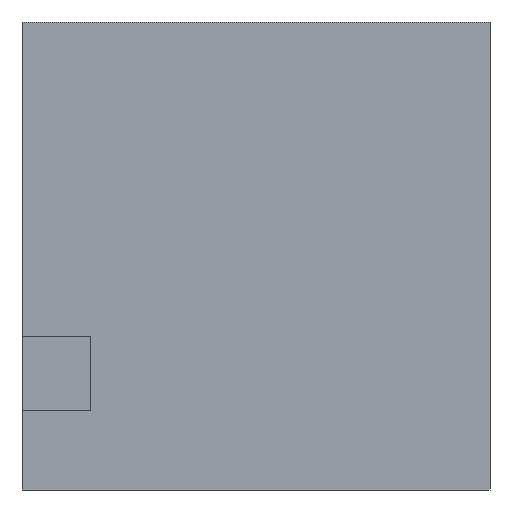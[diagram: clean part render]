
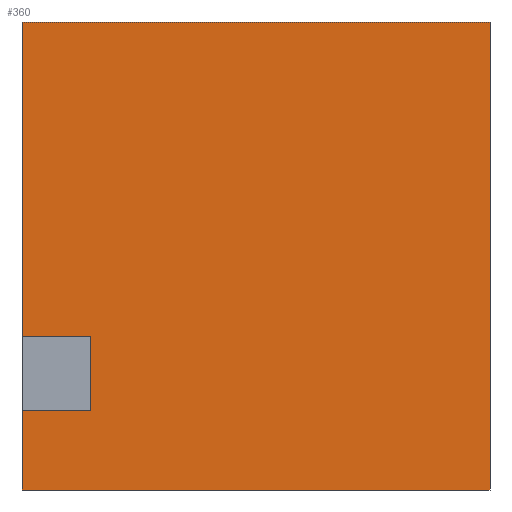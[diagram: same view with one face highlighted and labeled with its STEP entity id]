
A CAD part, left-side view. The second image highlights one B-rep face of the part: STEP entity #360.
In plain terms, the highlighted planar face has unit normal (-1, 0, 0).
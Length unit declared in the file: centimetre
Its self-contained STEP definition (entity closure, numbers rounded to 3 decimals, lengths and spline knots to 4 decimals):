
#3 = LINE ( 'NONE', #84, #902 ) ;
#63 = VECTOR ( 'NONE', #504, 100. ) ;
#80 = CARTESIAN_POINT ( 'NONE',  ( 0., 1000., 0. ) ) ;
#83 = EDGE_CURVE ( 'NONE', #748, #543, #1307, .T. ) ;
#84 = CARTESIAN_POINT ( 'NONE',  ( 0., 1000., 1000. ) ) ;
#89 = LINE ( 'NONE', #80, #63 ) ;
#95 = DIRECTION ( 'NONE',  ( 0., 0., 1. ) ) ;
#98 = ORIENTED_EDGE ( 'NONE', *, *, #685, .T. ) ;
#112 = CARTESIAN_POINT ( 'NONE',  ( 0., 852.761, 169.1954 ) ) ;
#138 = DIRECTION ( 'NONE',  ( 0., 1., 0. ) ) ;
#158 = ORIENTED_EDGE ( 'NONE', *, *, #884, .F. ) ;
#181 = CARTESIAN_POINT ( 'NONE',  ( 0., 1000., 327.7944 ) ) ;
#216 = VERTEX_POINT ( 'NONE', #475 ) ;
#236 = VECTOR ( 'NONE', #138, 100. ) ;
#249 = CARTESIAN_POINT ( 'NONE',  ( 0., 852.761, 327.7944 ) ) ;
#265 = AXIS2_PLACEMENT_3D ( 'NONE', #1304, #435, #1176 ) ;
#303 = VECTOR ( 'NONE', #665, 100. ) ;
#360 = ADVANCED_FACE ( 'NONE', ( #980 ), #1183, .F. ) ;
#366 = CARTESIAN_POINT ( 'NONE',  ( 0., 1000., 169.1954 ) ) ;
#407 = CARTESIAN_POINT ( 'NONE',  ( 0., 1000., 1000. ) ) ;
#409 = VERTEX_POINT ( 'NONE', #891 ) ;
#431 = CARTESIAN_POINT ( 'NONE',  ( 0., 852.761, 169.1954 ) ) ;
#435 = DIRECTION ( 'NONE',  ( 1., 0., 0. ) ) ;
#440 = LINE ( 'NONE', #978, #1085 ) ;
#474 = ORIENTED_EDGE ( 'NONE', *, *, #896, .T. ) ;
#475 = CARTESIAN_POINT ( 'NONE',  ( 0., 852.761, 169.1954 ) ) ;
#481 = ORIENTED_EDGE ( 'NONE', *, *, #1212, .F. ) ;
#504 = DIRECTION ( 'NONE',  ( 0., -1., 0. ) ) ;
#510 = DIRECTION ( 'NONE',  ( 0., 0., -1. ) ) ;
#543 = VERTEX_POINT ( 'NONE', #181 ) ;
#553 = EDGE_CURVE ( 'NONE', #1023, #664, #1125, .T. ) ;
#656 = LINE ( 'NONE', #1308, #303 ) ;
#664 = VERTEX_POINT ( 'NONE', #1052 ) ;
#665 = DIRECTION ( 'NONE',  ( 0., 0., -1. ) ) ;
#685 = EDGE_CURVE ( 'NONE', #409, #703, #89, .T. ) ;
#703 = VERTEX_POINT ( 'NONE', #939 ) ;
#708 = VERTEX_POINT ( 'NONE', #366 ) ;
#725 = LINE ( 'NONE', #431, #1215 ) ;
#748 = VERTEX_POINT ( 'NONE', #1137 ) ;
#787 = CARTESIAN_POINT ( 'NONE',  ( 0., 1000., 1000. ) ) ;
#805 = EDGE_CURVE ( 'NONE', #708, #216, #725, .T. ) ;
#874 = ORIENTED_EDGE ( 'NONE', *, *, #1282, .T. ) ;
#880 = VECTOR ( 'NONE', #1252, 100. ) ;
#884 = EDGE_CURVE ( 'NONE', #216, #748, #1048, .T. ) ;
#891 = CARTESIAN_POINT ( 'NONE',  ( 0., 1000., 0. ) ) ;
#896 = EDGE_CURVE ( 'NONE', #708, #409, #3, .T. ) ;
#902 = VECTOR ( 'NONE', #510, 100. ) ;
#926 = VECTOR ( 'NONE', #95, 100. ) ;
#939 = CARTESIAN_POINT ( 'NONE',  ( 0., 0., 0. ) ) ;
#978 = CARTESIAN_POINT ( 'NONE',  ( 0., 1000., 1000. ) ) ;
#980 = FACE_OUTER_BOUND ( 'NONE', #1021, .T. ) ;
#1021 = EDGE_LOOP ( 'NONE', ( #158, #1268, #474, #98, #481, #1128, #874, #1191 ) ) ;
#1023 = VERTEX_POINT ( 'NONE', #787 ) ;
#1048 = LINE ( 'NONE', #112, #926 ) ;
#1052 = CARTESIAN_POINT ( 'NONE',  ( 0., 0., 1000. ) ) ;
#1085 = VECTOR ( 'NONE', #1300, 100. ) ;
#1125 = LINE ( 'NONE', #407, #880 ) ;
#1128 = ORIENTED_EDGE ( 'NONE', *, *, #553, .F. ) ;
#1137 = CARTESIAN_POINT ( 'NONE',  ( 0., 852.761, 327.7944 ) ) ;
#1176 = DIRECTION ( 'NONE',  ( 0., 0., -1. ) ) ;
#1183 = PLANE ( 'NONE',  #265 ) ;
#1191 = ORIENTED_EDGE ( 'NONE', *, *, #83, .F. ) ;
#1212 = EDGE_CURVE ( 'NONE', #664, #703, #656, .T. ) ;
#1215 = VECTOR ( 'NONE', #1279, 100. ) ;
#1252 = DIRECTION ( 'NONE',  ( 0., -1., 0. ) ) ;
#1268 = ORIENTED_EDGE ( 'NONE', *, *, #805, .F. ) ;
#1279 = DIRECTION ( 'NONE',  ( 0., -1., 0. ) ) ;
#1282 = EDGE_CURVE ( 'NONE', #1023, #543, #440, .T. ) ;
#1300 = DIRECTION ( 'NONE',  ( 0., 0., -1. ) ) ;
#1304 = CARTESIAN_POINT ( 'NONE',  ( 0., 1000., 1000. ) ) ;
#1307 = LINE ( 'NONE', #249, #236 ) ;
#1308 = CARTESIAN_POINT ( 'NONE',  ( 0., 0., 1000. ) ) ;
